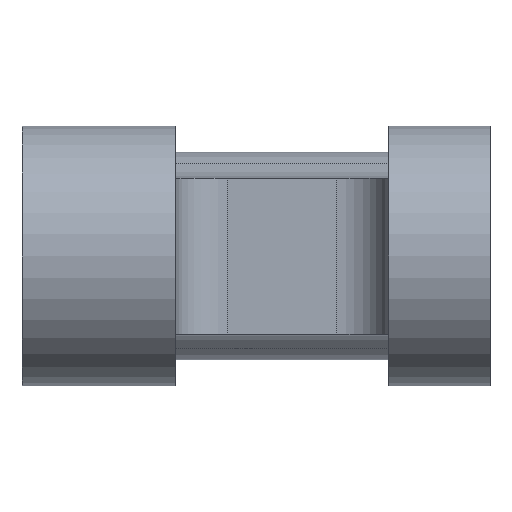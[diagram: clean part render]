
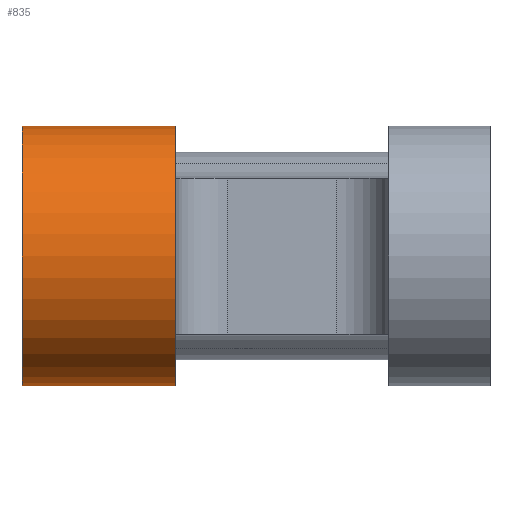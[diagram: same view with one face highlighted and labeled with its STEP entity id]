
A CAD part, front view. The second image highlights one B-rep face of the part: STEP entity #835.
In plain terms, the highlighted cylindrical face has radius 5 mm (diameter 10 mm), a partial arc.
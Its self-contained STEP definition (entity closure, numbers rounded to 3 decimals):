
#299=CARTESIAN_POINT('Axis2P3D Location',(9.,0.,0.)) ;
#576=CARTESIAN_POINT('Vertex',(0.,3.,4.)) ;
#583=CARTESIAN_POINT('Vertex',(0.,3.,-4.)) ;
#586=CARTESIAN_POINT('Axis2P3D Location',(0.,0.,0.)) ;
#670=CARTESIAN_POINT('Vertex',(5.9,3.,4.)) ;
#673=CARTESIAN_POINT('Axis2P3D Location',(5.9,0.,0.)) ;
#677=CARTESIAN_POINT('Vertex',(5.9,3.,-4.)) ;
#759=CARTESIAN_POINT('Line Origine',(9.,3.,4.)) ;
#824=CARTESIAN_POINT('Line Origine',(9.,3.,-4.)) ;
#300=DIRECTION('Axis2P3D Direction',(1.,0.,0.)) ;
#301=DIRECTION('Axis2P3D XDirection',(0.,0.6,0.8)) ;
#587=DIRECTION('Axis2P3D Direction',(1.,0.,0.)) ;
#674=DIRECTION('Axis2P3D Direction',(1.,0.,0.)) ;
#760=DIRECTION('Vector Direction',(1.,0.,0.)) ;
#825=DIRECTION('Vector Direction',(1.,0.,0.)) ;
#302=AXIS2_PLACEMENT_3D('Cylinder Axis2P3D',#299,#300,#301) ;
#588=AXIS2_PLACEMENT_3D('Circle Axis2P3D',#586,#587,$) ;
#675=AXIS2_PLACEMENT_3D('Circle Axis2P3D',#673,#674,$) ;
#830=ORIENTED_EDGE('',*,*,#763,.F.) ;
#831=ORIENTED_EDGE('',*,*,#590,.T.) ;
#832=ORIENTED_EDGE('',*,*,#828,.T.) ;
#833=ORIENTED_EDGE('',*,*,#679,.F.) ;
#761=VECTOR('Line Direction',#760,1.) ;
#826=VECTOR('Line Direction',#825,1.) ;
#835=ADVANCED_FACE('Corps principal',(#834),#303,.T.) ;
#589=CIRCLE('generated circle',#588,5.) ;
#676=CIRCLE('generated circle',#675,5.) ;
#303=CYLINDRICAL_SURFACE('generated cylinder',#302,5.) ;
#590=EDGE_CURVE('',#577,#584,#589,.T.) ;
#679=EDGE_CURVE('',#671,#678,#676,.T.) ;
#763=EDGE_CURVE('',#577,#671,#762,.T.) ;
#828=EDGE_CURVE('',#584,#678,#827,.T.) ;
#829=EDGE_LOOP('',(#830,#831,#832,#833)) ;
#834=FACE_OUTER_BOUND('',#829,.T.) ;
#762=LINE('Line',#759,#761) ;
#827=LINE('Line',#824,#826) ;
#577=VERTEX_POINT('',#576) ;
#584=VERTEX_POINT('',#583) ;
#671=VERTEX_POINT('',#670) ;
#678=VERTEX_POINT('',#677) ;
